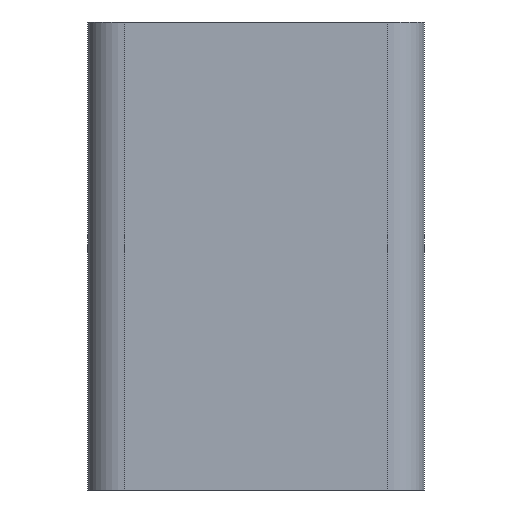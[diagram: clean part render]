
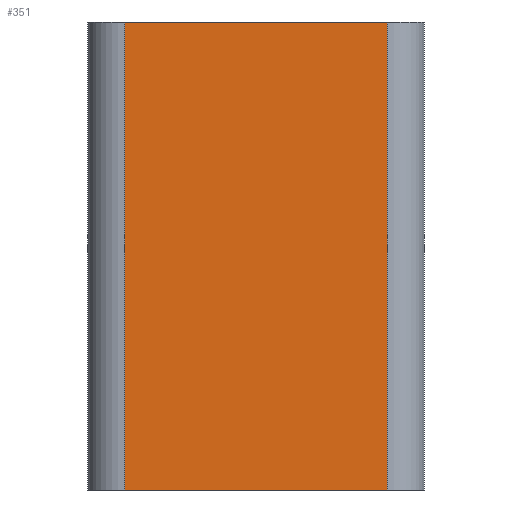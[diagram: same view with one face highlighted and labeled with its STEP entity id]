
A CAD part, front view. The second image highlights one B-rep face of the part: STEP entity #351.
In plain terms, the highlighted planar face has unit normal (0, -1, 0).
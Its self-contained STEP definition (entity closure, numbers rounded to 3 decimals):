
#26=PLANE('',#401);
#39=FACE_OUTER_BOUND('',#63,.T.);
#63=EDGE_LOOP('',(#259,#260,#261,#262));
#90=LINE('',#559,#118);
#91=LINE('',#562,#119);
#97=LINE('',#580,#125);
#98=LINE('',#581,#126);
#118=VECTOR('',#445,10.);
#119=VECTOR('',#448,10.);
#125=VECTOR('',#462,10.);
#126=VECTOR('',#463,10.);
#165=VERTEX_POINT('',#552);
#168=VERTEX_POINT('',#557);
#169=VERTEX_POINT('',#561);
#177=VERTEX_POINT('',#579);
#200=EDGE_CURVE('',#168,#165,#90,.T.);
#201=EDGE_CURVE('',#165,#169,#91,.T.);
#210=EDGE_CURVE('',#177,#168,#97,.T.);
#211=EDGE_CURVE('',#169,#177,#98,.T.);
#259=ORIENTED_EDGE('',*,*,#200,.F.);
#260=ORIENTED_EDGE('',*,*,#210,.F.);
#261=ORIENTED_EDGE('',*,*,#211,.F.);
#262=ORIENTED_EDGE('',*,*,#201,.F.);
#351=ADVANCED_FACE('',(#39),#26,.T.);
#401=AXIS2_PLACEMENT_3D('',#578,#460,#461);
#445=DIRECTION('',(0.,0.,1.));
#448=DIRECTION('',(1.,0.,0.));
#460=DIRECTION('center_axis',(0.,-1.,0.));
#461=DIRECTION('ref_axis',(1.,0.,0.));
#462=DIRECTION('',(-1.,0.,0.));
#463=DIRECTION('',(0.,0.,-1.));
#552=CARTESIAN_POINT('',(2.,0.,25.));
#557=CARTESIAN_POINT('',(2.,0.,0.));
#559=CARTESIAN_POINT('',(2.,0.,0.));
#561=CARTESIAN_POINT('',(16.,0.,25.));
#562=CARTESIAN_POINT('',(18.,0.,25.));
#578=CARTESIAN_POINT('Origin',(0.,0.,0.));
#579=CARTESIAN_POINT('',(16.,0.,0.));
#580=CARTESIAN_POINT('',(18.,0.,0.));
#581=CARTESIAN_POINT('',(16.,0.,0.));
